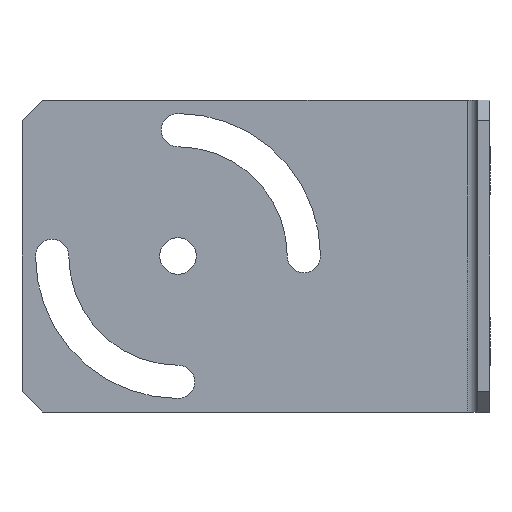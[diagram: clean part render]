
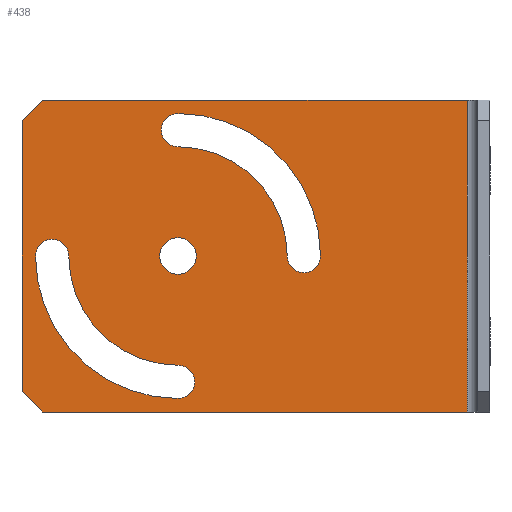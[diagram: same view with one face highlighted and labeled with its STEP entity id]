
A CAD part, left-side view. The second image highlights one B-rep face of the part: STEP entity #438.
In plain terms, the highlighted planar face has unit normal (-1, 0, 0).
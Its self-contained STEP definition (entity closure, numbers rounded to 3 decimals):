
#2 = DIRECTION ( 'NONE',  ( 0., 1., 0. ) ) ;
#3 = VERTEX_POINT ( 'NONE', #463 ) ;
#7 = CARTESIAN_POINT ( 'NONE',  ( 0., 30., 15. ) ) ;
#13 = DIRECTION ( 'NONE',  ( 0., -1., 0. ) ) ;
#15 = DIRECTION ( 'NONE',  ( 1., 0., 0. ) ) ;
#25 = ORIENTED_EDGE ( 'NONE', *, *, #136, .F. ) ;
#26 = VERTEX_POINT ( 'NONE', #174 ) ;
#57 = DIRECTION ( 'NONE',  ( 0., 0., 1. ) ) ;
#62 = EDGE_CURVE ( 'NONE', #26, #622, #722, .T. ) ;
#72 = LINE ( 'NONE', #298, #553 ) ;
#74 = DIRECTION ( 'NONE',  ( 0., 0.707, -0.707 ) ) ;
#76 = CARTESIAN_POINT ( 'NONE',  ( 0., 42.1, 15. ) ) ;
#82 = FACE_OUTER_BOUND ( 'NONE', #120, .T. ) ;
#85 = DIRECTION ( 'NONE',  ( 0., -1., 0. ) ) ;
#95 = LINE ( 'NONE', #955, #155 ) ;
#97 = CARTESIAN_POINT ( 'NONE',  ( 0., 43., 0. ) ) ;
#106 = CARTESIAN_POINT ( 'NONE',  ( 0., 30., 2.9 ) ) ;
#107 = DIRECTION ( 'NONE',  ( 0., -1., 0. ) ) ;
#109 = AXIS2_PLACEMENT_3D ( 'NONE', #193, #738, #493 ) ;
#118 = VECTOR ( 'NONE', #57, 1000. ) ;
#120 = EDGE_LOOP ( 'NONE', ( #1008, #127, #979, #348, #992, #741 ) ) ;
#124 = VERTEX_POINT ( 'NONE', #581 ) ;
#127 = ORIENTED_EDGE ( 'NONE', *, *, #323, .T. ) ;
#136 = EDGE_CURVE ( 'NONE', #532, #3, #886, .T. ) ;
#143 = DIRECTION ( 'NONE',  ( 0., 0., -1. ) ) ;
#152 = ORIENTED_EDGE ( 'NONE', *, *, #749, .F. ) ;
#155 = VECTOR ( 'NONE', #224, 1000. ) ;
#162 = VERTEX_POINT ( 'NONE', #346 ) ;
#170 = FACE_BOUND ( 'NONE', #720, .T. ) ;
#174 = CARTESIAN_POINT ( 'NONE',  ( 0., 30., 4.5 ) ) ;
#185 = CARTESIAN_POINT ( 'NONE',  ( 0., 30., 15. ) ) ;
#188 = ORIENTED_EDGE ( 'NONE', *, *, #860, .F. ) ;
#191 = DIRECTION ( 'NONE',  ( 0., -1., 0. ) ) ;
#193 = CARTESIAN_POINT ( 'NONE',  ( 0., 30., 15. ) ) ;
#211 = LINE ( 'NONE', #436, #118 ) ;
#216 = LINE ( 'NONE', #453, #481 ) ;
#224 = DIRECTION ( 'NONE',  ( 0., -1., 0. ) ) ;
#228 = VECTOR ( 'NONE', #13, 1000. ) ;
#231 = VERTEX_POINT ( 'NONE', #1005 ) ;
#254 = CIRCLE ( 'NONE', #383, 1.6 ) ;
#269 = AXIS2_PLACEMENT_3D ( 'NONE', #76, #297, #85 ) ;
#270 = CARTESIAN_POINT ( 'NONE',  ( 0., 43.7, 15. ) ) ;
#282 = CIRCLE ( 'NONE', #109, 13.7 ) ;
#287 = AXIS2_PLACEMENT_3D ( 'NONE', #428, #662, #418 ) ;
#292 = CIRCLE ( 'NONE', #269, 1.6 ) ;
#297 = DIRECTION ( 'NONE',  ( -1., 0., 0. ) ) ;
#298 = CARTESIAN_POINT ( 'NONE',  ( 0., 45., 30. ) ) ;
#300 = CARTESIAN_POINT ( 'NONE',  ( 0., 45., 30. ) ) ;
#312 = LINE ( 'NONE', #381, #228 ) ;
#316 = CARTESIAN_POINT ( 'NONE',  ( 0., 43., 30. ) ) ;
#321 = CARTESIAN_POINT ( 'NONE',  ( 0., 30., 27.1 ) ) ;
#323 = EDGE_CURVE ( 'NONE', #803, #342, #211, .T. ) ;
#334 = AXIS2_PLACEMENT_3D ( 'NONE', #526, #445, #521 ) ;
#337 = AXIS2_PLACEMENT_3D ( 'NONE', #106, #972, #191 ) ;
#339 = EDGE_CURVE ( 'NONE', #3, #532, #842, .T. ) ;
#342 = VERTEX_POINT ( 'NONE', #468 ) ;
#344 = DIRECTION ( 'NONE',  ( -1., 0., 0. ) ) ;
#346 = CARTESIAN_POINT ( 'NONE',  ( 0., 43., 30. ) ) ;
#348 = ORIENTED_EDGE ( 'NONE', *, *, #377, .T. ) ;
#354 = CARTESIAN_POINT ( 'NONE',  ( 0., 40.5, 15. ) ) ;
#358 = AXIS2_PLACEMENT_3D ( 'NONE', #571, #508, #107 ) ;
#367 = CARTESIAN_POINT ( 'NONE',  ( 0., 45., 2. ) ) ;
#372 = EDGE_CURVE ( 'NONE', #790, #905, #382, .T. ) ;
#377 = EDGE_CURVE ( 'NONE', #162, #231, #782, .T. ) ;
#380 = ORIENTED_EDGE ( 'NONE', *, *, #547, .F. ) ;
#381 = CARTESIAN_POINT ( 'NONE',  ( 0., 45., 30. ) ) ;
#382 = CIRCLE ( 'NONE', #477, 1.6 ) ;
#383 = AXIS2_PLACEMENT_3D ( 'NONE', #464, #344, #998 ) ;
#384 = PLANE ( 'NONE',  #719 ) ;
#416 = EDGE_LOOP ( 'NONE', ( #734, #971, #865, #380, #433 ) ) ;
#418 = DIRECTION ( 'NONE',  ( 0., -1., 0. ) ) ;
#428 = CARTESIAN_POINT ( 'NONE',  ( 0., 17.9, 15. ) ) ;
#433 = ORIENTED_EDGE ( 'NONE', *, *, #489, .F. ) ;
#436 = CARTESIAN_POINT ( 'NONE',  ( 0., 2.2, 30. ) ) ;
#438 = ADVANCED_FACE ( 'NONE', ( #627, #170, #716, #82 ), #384, .F. ) ;
#445 = DIRECTION ( 'NONE',  ( -1., 0., 0. ) ) ;
#453 = CARTESIAN_POINT ( 'NONE',  ( 0., 45., 2. ) ) ;
#460 = CARTESIAN_POINT ( 'NONE',  ( 0., 30., 25.5 ) ) ;
#463 = CARTESIAN_POINT ( 'NONE',  ( 0., 31.75, 15. ) ) ;
#464 = CARTESIAN_POINT ( 'NONE',  ( 0., 30., 2.9 ) ) ;
#468 = CARTESIAN_POINT ( 'NONE',  ( 0., 2.2, 30. ) ) ;
#469 = DIRECTION ( 'NONE',  ( 0., -1., 0. ) ) ;
#470 = EDGE_CURVE ( 'NONE', #986, #803, #95, .T. ) ;
#477 = AXIS2_PLACEMENT_3D ( 'NONE', #321, #951, #778 ) ;
#481 = VECTOR ( 'NONE', #1006, 1000. ) ;
#489 = EDGE_CURVE ( 'NONE', #124, #830, #254, .T. ) ;
#493 = DIRECTION ( 'NONE',  ( 0., -1., 0. ) ) ;
#496 = CIRCLE ( 'NONE', #528, 13.7 ) ;
#502 = ORIENTED_EDGE ( 'NONE', *, *, #339, .F. ) ;
#506 = CARTESIAN_POINT ( 'NONE',  ( 0., 28.25, 15. ) ) ;
#508 = DIRECTION ( 'NONE',  ( 1., 0., 0. ) ) ;
#521 = DIRECTION ( 'NONE',  ( 0., -1., 0. ) ) ;
#526 = CARTESIAN_POINT ( 'NONE',  ( 0., 30., 15. ) ) ;
#528 = AXIS2_PLACEMENT_3D ( 'NONE', #529, #846, #856 ) ;
#529 = CARTESIAN_POINT ( 'NONE',  ( 0., 30., 15. ) ) ;
#532 = VERTEX_POINT ( 'NONE', #506 ) ;
#533 = CARTESIAN_POINT ( 'NONE',  ( 0., 16.3, 15. ) ) ;
#547 = EDGE_CURVE ( 'NONE', #830, #26, #785, .T. ) ;
#553 = VECTOR ( 'NONE', #143, 1000. ) ;
#569 = EDGE_CURVE ( 'NONE', #912, #834, #742, .T. ) ;
#571 = CARTESIAN_POINT ( 'NONE',  ( 0., 30., 15. ) ) ;
#575 = VERTEX_POINT ( 'NONE', #270 ) ;
#581 = CARTESIAN_POINT ( 'NONE',  ( 0., 30., 1.3 ) ) ;
#608 = AXIS2_PLACEMENT_3D ( 'NONE', #7, #944, #469 ) ;
#622 = VERTEX_POINT ( 'NONE', #354 ) ;
#627 = FACE_BOUND ( 'NONE', #889, .T. ) ;
#662 = DIRECTION ( 'NONE',  ( -1., 0., 0. ) ) ;
#664 = DIRECTION ( 'NONE',  ( 0., -1., 0. ) ) ;
#690 = CARTESIAN_POINT ( 'NONE',  ( 0., 30., 28.7 ) ) ;
#697 = CARTESIAN_POINT ( 'NONE',  ( 0., 28.4, 2.9 ) ) ;
#708 = CARTESIAN_POINT ( 'NONE',  ( 0., 19.5, 15. ) ) ;
#716 = FACE_BOUND ( 'NONE', #416, .T. ) ;
#719 = AXIS2_PLACEMENT_3D ( 'NONE', #300, #15, #2 ) ;
#720 = EDGE_LOOP ( 'NONE', ( #152, #870, #188, #906 ) ) ;
#722 = CIRCLE ( 'NONE', #358, 10.5 ) ;
#734 = ORIENTED_EDGE ( 'NONE', *, *, #967, .F. ) ;
#737 = EDGE_CURVE ( 'NONE', #779, #986, #216, .T. ) ;
#738 = DIRECTION ( 'NONE',  ( -1., 0., 0. ) ) ;
#741 = ORIENTED_EDGE ( 'NONE', *, *, #737, .T. ) ;
#742 = CIRCLE ( 'NONE', #287, 1.6 ) ;
#749 = EDGE_CURVE ( 'NONE', #834, #790, #496, .T. ) ;
#762 = EDGE_CURVE ( 'NONE', #231, #779, #72, .T. ) ;
#768 = CIRCLE ( 'NONE', #608, 10.5 ) ;
#778 = DIRECTION ( 'NONE',  ( 0., -1., 0. ) ) ;
#779 = VERTEX_POINT ( 'NONE', #367 ) ;
#782 = LINE ( 'NONE', #316, #965 ) ;
#785 = CIRCLE ( 'NONE', #337, 1.6 ) ;
#790 = VERTEX_POINT ( 'NONE', #690 ) ;
#803 = VERTEX_POINT ( 'NONE', #949 ) ;
#810 = EDGE_CURVE ( 'NONE', #622, #575, #292, .T. ) ;
#830 = VERTEX_POINT ( 'NONE', #697 ) ;
#832 = EDGE_CURVE ( 'NONE', #162, #342, #312, .T. ) ;
#834 = VERTEX_POINT ( 'NONE', #533 ) ;
#842 = CIRCLE ( 'NONE', #334, 1.75 ) ;
#846 = DIRECTION ( 'NONE',  ( -1., 0., 0. ) ) ;
#856 = DIRECTION ( 'NONE',  ( 0., -1., 0. ) ) ;
#860 = EDGE_CURVE ( 'NONE', #905, #912, #768, .T. ) ;
#865 = ORIENTED_EDGE ( 'NONE', *, *, #62, .F. ) ;
#870 = ORIENTED_EDGE ( 'NONE', *, *, #569, .F. ) ;
#886 = CIRCLE ( 'NONE', #989, 1.75 ) ;
#889 = EDGE_LOOP ( 'NONE', ( #25, #502 ) ) ;
#905 = VERTEX_POINT ( 'NONE', #460 ) ;
#906 = ORIENTED_EDGE ( 'NONE', *, *, #372, .F. ) ;
#912 = VERTEX_POINT ( 'NONE', #708 ) ;
#914 = DIRECTION ( 'NONE',  ( -1., 0., 0. ) ) ;
#944 = DIRECTION ( 'NONE',  ( 1., 0., 0. ) ) ;
#949 = CARTESIAN_POINT ( 'NONE',  ( 0., 2.2, 0. ) ) ;
#951 = DIRECTION ( 'NONE',  ( -1., 0., 0. ) ) ;
#955 = CARTESIAN_POINT ( 'NONE',  ( 0., 45., 0. ) ) ;
#965 = VECTOR ( 'NONE', #74, 1000. ) ;
#967 = EDGE_CURVE ( 'NONE', #575, #124, #282, .T. ) ;
#971 = ORIENTED_EDGE ( 'NONE', *, *, #810, .F. ) ;
#972 = DIRECTION ( 'NONE',  ( -1., 0., 0. ) ) ;
#979 = ORIENTED_EDGE ( 'NONE', *, *, #832, .F. ) ;
#986 = VERTEX_POINT ( 'NONE', #97 ) ;
#989 = AXIS2_PLACEMENT_3D ( 'NONE', #185, #914, #664 ) ;
#992 = ORIENTED_EDGE ( 'NONE', *, *, #762, .T. ) ;
#998 = DIRECTION ( 'NONE',  ( 0., -1., 0. ) ) ;
#1005 = CARTESIAN_POINT ( 'NONE',  ( 0., 45., 28. ) ) ;
#1006 = DIRECTION ( 'NONE',  ( 0., -0.707, -0.707 ) ) ;
#1008 = ORIENTED_EDGE ( 'NONE', *, *, #470, .T. ) ;
